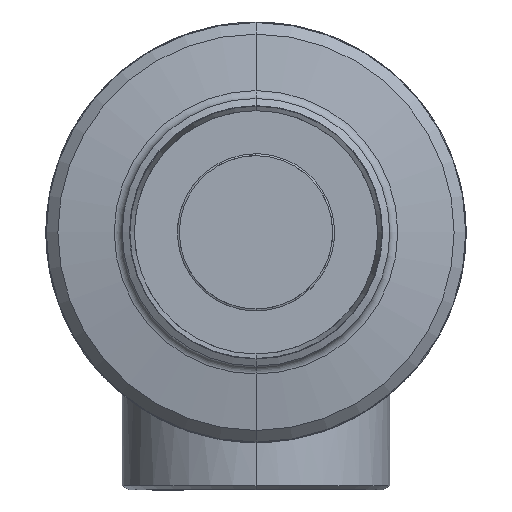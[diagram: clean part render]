
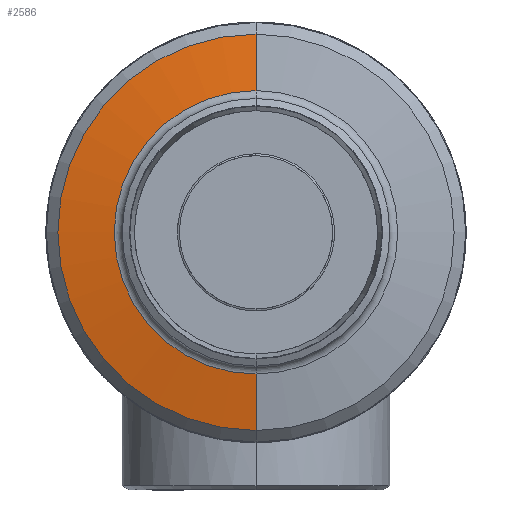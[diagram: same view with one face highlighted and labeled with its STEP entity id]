
A CAD part, front view. The second image highlights one B-rep face of the part: STEP entity #2586.
In plain terms, the highlighted conical face has half-angle 80 degrees and reference radius 109.5 mm.
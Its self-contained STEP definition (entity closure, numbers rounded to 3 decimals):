
#138 = ORIENTED_EDGE ( 'NONE', *, *, #5331, .T. ) ;
#489 = ORIENTED_EDGE ( 'NONE', *, *, #5852, .T. ) ;
#641 = FACE_OUTER_BOUND ( 'NONE', #2358, .T. ) ;
#642 = CONICAL_SURFACE ( 'NONE', #643, 109.5, 1.396 ) ;
#643 = AXIS2_PLACEMENT_3D ( 'NONE', #644, #645, #646 ) ;
#644 = CARTESIAN_POINT ( 'NONE',  ( 0., -15.5, 0. ) ) ;
#645 = DIRECTION ( 'NONE',  ( 0., 1., 0. ) ) ;
#646 = DIRECTION ( 'NONE',  ( 0., 0., 1. ) ) ;
#1102 = VERTEX_POINT ( 'NONE', #3880 ) ;
#1136 = EDGE_CURVE ( 'NONE', #6154, #6170, #3905, .T. ) ;
#1874 = ORIENTED_EDGE ( 'NONE', *, *, #5467, .F. ) ;
#2358 = EDGE_LOOP ( 'NONE', ( #1874, #489, #138, #5637 ) ) ;
#2586 = ADVANCED_FACE ( 'NONE', ( #641 ), #642, .T. ) ;
#2924 = CARTESIAN_POINT ( 'NONE',  ( 0., -16.57, 103.43 ) ) ;
#3047 = CARTESIAN_POINT ( 'NONE',  ( 0., -16.57, -103.43 ) ) ;
#3242 = CIRCLE ( 'NONE', #3243, 73.982 ) ;
#3243 = AXIS2_PLACEMENT_3D ( 'NONE', #3244, #3245, #3246 ) ;
#3244 = CARTESIAN_POINT ( 'NONE',  ( 0., -21.763, 0. ) ) ;
#3245 = DIRECTION ( 'NONE',  ( 0., 1., 0. ) ) ;
#3246 = DIRECTION ( 'NONE',  ( 0., 0., -1. ) ) ;
#3586 = LINE ( 'NONE', #3587, #3588 ) ;
#3587 = CARTESIAN_POINT ( 'NONE',  ( 0., -15.5, 109.5 ) ) ;
#3588 = VECTOR ( 'NONE', #3589, 1000. ) ;
#3589 = DIRECTION ( 'NONE',  ( 0., 0.174, 0.985 ) ) ;
#3753 = LINE ( 'NONE', #3754, #3755 ) ;
#3754 = CARTESIAN_POINT ( 'NONE',  ( 0., -15.5, -109.5 ) ) ;
#3755 = VECTOR ( 'NONE', #3756, 1000. ) ;
#3756 = DIRECTION ( 'NONE',  ( 0., 0.174, -0.985 ) ) ;
#3880 = CARTESIAN_POINT ( 'NONE',  ( 0., -21.763, 73.982 ) ) ;
#3905 = CIRCLE ( 'NONE', #3906, 103.43 ) ;
#3906 = AXIS2_PLACEMENT_3D ( 'NONE', #3907, #3908, #3909 ) ;
#3907 = CARTESIAN_POINT ( 'NONE',  ( 0., -16.57, 0. ) ) ;
#3908 = DIRECTION ( 'NONE',  ( 0., -1., 0. ) ) ;
#3909 = DIRECTION ( 'NONE',  ( 0., 0., -1. ) ) ;
#4610 = CARTESIAN_POINT ( 'NONE',  ( 0., -21.763, -73.982 ) ) ;
#5331 = EDGE_CURVE ( 'NONE', #1102, #6154, #3586, .T. ) ;
#5467 = EDGE_CURVE ( 'NONE', #6277, #6170, #3753, .T. ) ;
#5637 = ORIENTED_EDGE ( 'NONE', *, *, #1136, .T. ) ;
#5852 = EDGE_CURVE ( 'NONE', #6277, #1102, #3242, .T. ) ;
#6154 = VERTEX_POINT ( 'NONE', #2924 ) ;
#6170 = VERTEX_POINT ( 'NONE', #3047 ) ;
#6277 = VERTEX_POINT ( 'NONE', #4610 ) ;
